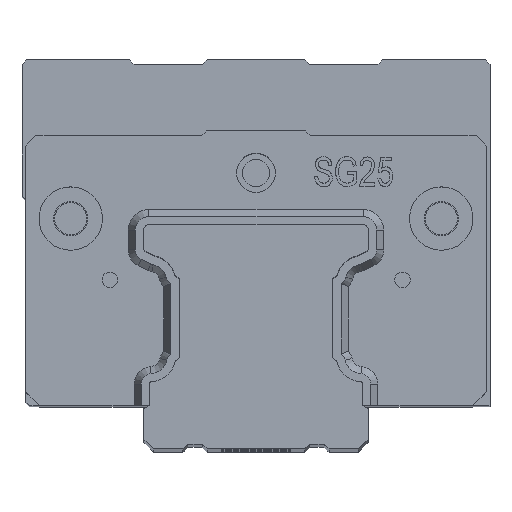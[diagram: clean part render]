
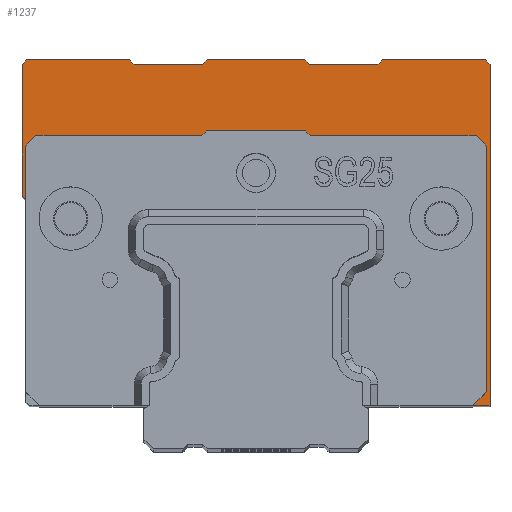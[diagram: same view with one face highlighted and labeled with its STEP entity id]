
A CAD part, top view. The second image highlights one B-rep face of the part: STEP entity #1237.
In plain terms, the highlighted planar face has unit normal (0, 0, 1).
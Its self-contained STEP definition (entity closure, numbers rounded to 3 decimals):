
#814=FACE_OUTER_BOUND('',#3558,.T.);
#1237=ADVANCED_FACE('',(#814),#1685,.F.);
#1685=PLANE('',#8945);
#1980=LINE('',#11864,#2641);
#1981=LINE('',#11867,#2642);
#1982=LINE('',#11869,#2643);
#1983=LINE('',#11871,#2644);
#1984=LINE('',#11873,#2645);
#1985=LINE('',#11875,#2646);
#1986=LINE('',#11877,#2647);
#1987=LINE('',#11879,#2648);
#1988=LINE('',#11881,#2649);
#1989=LINE('',#11883,#2650);
#1990=LINE('',#11885,#2651);
#1991=LINE('',#11887,#2652);
#1992=LINE('',#11889,#2653);
#1993=LINE('',#11891,#2654);
#1994=LINE('',#11893,#2655);
#1995=LINE('',#11895,#2656);
#1996=LINE('',#11897,#2657);
#1997=LINE('',#11899,#2658);
#1998=LINE('',#11901,#2659);
#1999=LINE('',#11903,#2660);
#2000=LINE('',#11905,#2661);
#2001=LINE('',#11907,#2662);
#2002=LINE('',#11909,#2663);
#2003=LINE('',#11911,#2664);
#2004=LINE('',#11913,#2665);
#2641=VECTOR('',#9822,1.);
#2642=VECTOR('',#9823,1.);
#2643=VECTOR('',#9824,1.);
#2644=VECTOR('',#9825,1.);
#2645=VECTOR('',#9826,1.);
#2646=VECTOR('',#9827,1.);
#2647=VECTOR('',#9828,1.);
#2648=VECTOR('',#9829,1.);
#2649=VECTOR('',#9830,1.);
#2650=VECTOR('',#9831,1.);
#2651=VECTOR('',#9832,1.);
#2652=VECTOR('',#9833,1.);
#2653=VECTOR('',#9834,1.);
#2654=VECTOR('',#9835,1.);
#2655=VECTOR('',#9836,1.);
#2656=VECTOR('',#9837,1.);
#2657=VECTOR('',#9838,1.);
#2658=VECTOR('',#9839,1.);
#2659=VECTOR('',#9840,1.);
#2660=VECTOR('',#9841,1.);
#2661=VECTOR('',#9842,1.);
#2662=VECTOR('',#9843,1.);
#2663=VECTOR('',#9844,1.);
#2664=VECTOR('',#9845,1.);
#2665=VECTOR('',#9846,1.);
#3558=EDGE_LOOP('',(#4391,#4392,#4393,#4394,#4395,#4396,#4397,#4398,#4399,
#4400,#4401,#4402,#4403,#4404,#4405,#4406,#4407,#4408,#4409,#4410,#4411,
#4412,#4413,#4414,#4415));
#4391=ORIENTED_EDGE('',*,*,#7493,.F.);
#4392=ORIENTED_EDGE('',*,*,#7494,.T.);
#4393=ORIENTED_EDGE('',*,*,#7495,.F.);
#4394=ORIENTED_EDGE('',*,*,#7496,.F.);
#4395=ORIENTED_EDGE('',*,*,#7497,.F.);
#4396=ORIENTED_EDGE('',*,*,#7498,.F.);
#4397=ORIENTED_EDGE('',*,*,#7499,.F.);
#4398=ORIENTED_EDGE('',*,*,#7500,.T.);
#4399=ORIENTED_EDGE('',*,*,#7501,.F.);
#4400=ORIENTED_EDGE('',*,*,#7502,.T.);
#4401=ORIENTED_EDGE('',*,*,#7503,.T.);
#4402=ORIENTED_EDGE('',*,*,#7504,.T.);
#4403=ORIENTED_EDGE('',*,*,#7505,.T.);
#4404=ORIENTED_EDGE('',*,*,#7506,.T.);
#4405=ORIENTED_EDGE('',*,*,#7507,.T.);
#4406=ORIENTED_EDGE('',*,*,#7508,.T.);
#4407=ORIENTED_EDGE('',*,*,#7509,.T.);
#4408=ORIENTED_EDGE('',*,*,#7510,.T.);
#4409=ORIENTED_EDGE('',*,*,#7511,.T.);
#4410=ORIENTED_EDGE('',*,*,#7512,.T.);
#4411=ORIENTED_EDGE('',*,*,#7513,.T.);
#4412=ORIENTED_EDGE('',*,*,#7514,.T.);
#4413=ORIENTED_EDGE('',*,*,#7515,.T.);
#4414=ORIENTED_EDGE('',*,*,#7516,.T.);
#4415=ORIENTED_EDGE('',*,*,#7517,.T.);
#6604=VERTEX_POINT('',#11865);
#6605=VERTEX_POINT('',#11866);
#6606=VERTEX_POINT('',#11868);
#6607=VERTEX_POINT('',#11870);
#6608=VERTEX_POINT('',#11872);
#6609=VERTEX_POINT('',#11874);
#6610=VERTEX_POINT('',#11876);
#6611=VERTEX_POINT('',#11878);
#6612=VERTEX_POINT('',#11880);
#6613=VERTEX_POINT('',#11882);
#6614=VERTEX_POINT('',#11884);
#6615=VERTEX_POINT('',#11886);
#6616=VERTEX_POINT('',#11888);
#6617=VERTEX_POINT('',#11890);
#6618=VERTEX_POINT('',#11892);
#6619=VERTEX_POINT('',#11894);
#6620=VERTEX_POINT('',#11896);
#6621=VERTEX_POINT('',#11898);
#6622=VERTEX_POINT('',#11900);
#6623=VERTEX_POINT('',#11902);
#6624=VERTEX_POINT('',#11904);
#6625=VERTEX_POINT('',#11906);
#6626=VERTEX_POINT('',#11908);
#6627=VERTEX_POINT('',#11910);
#6628=VERTEX_POINT('',#11912);
#7493=EDGE_CURVE('',#6604,#6605,#1980,.T.);
#7494=EDGE_CURVE('',#6604,#6606,#1981,.T.);
#7495=EDGE_CURVE('',#6607,#6606,#1982,.T.);
#7496=EDGE_CURVE('',#6608,#6607,#1983,.T.);
#7497=EDGE_CURVE('',#6609,#6608,#1984,.T.);
#7498=EDGE_CURVE('',#6610,#6609,#1985,.T.);
#7499=EDGE_CURVE('',#6611,#6610,#1986,.T.);
#7500=EDGE_CURVE('',#6611,#6612,#1987,.T.);
#7501=EDGE_CURVE('',#6613,#6612,#1988,.T.);
#7502=EDGE_CURVE('',#6613,#6614,#1989,.T.);
#7503=EDGE_CURVE('',#6614,#6615,#1990,.T.);
#7504=EDGE_CURVE('',#6615,#6616,#1991,.T.);
#7505=EDGE_CURVE('',#6616,#6617,#1992,.T.);
#7506=EDGE_CURVE('',#6617,#6618,#1993,.T.);
#7507=EDGE_CURVE('',#6618,#6619,#1994,.T.);
#7508=EDGE_CURVE('',#6619,#6620,#1995,.T.);
#7509=EDGE_CURVE('',#6620,#6621,#1996,.T.);
#7510=EDGE_CURVE('',#6621,#6622,#1997,.T.);
#7511=EDGE_CURVE('',#6622,#6623,#1998,.T.);
#7512=EDGE_CURVE('',#6623,#6624,#1999,.T.);
#7513=EDGE_CURVE('',#6624,#6625,#2000,.T.);
#7514=EDGE_CURVE('',#6625,#6626,#2001,.T.);
#7515=EDGE_CURVE('',#6626,#6627,#2002,.T.);
#7516=EDGE_CURVE('',#6627,#6628,#2003,.T.);
#7517=EDGE_CURVE('',#6628,#6605,#2004,.T.);
#8945=AXIS2_PLACEMENT_3D('',#11914,#9847,#9848);
#9822=DIRECTION('',(0.,-1.,0.));
#9823=DIRECTION('',(0.707,0.707,0.));
#9824=DIRECTION('',(-1.,0.,0.));
#9825=DIRECTION('',(-0.707,-0.707,0.));
#9826=DIRECTION('',(-1.,0.,0.));
#9827=DIRECTION('',(-0.707,0.707,0.));
#9828=DIRECTION('',(-1.,0.,0.));
#9829=DIRECTION('',(0.707,-0.707,0.));
#9830=DIRECTION('',(0.,1.,0.));
#9831=DIRECTION('',(-0.707,-0.707,0.));
#9832=DIRECTION('',(1.,0.,0.));
#9833=DIRECTION('',(0.,1.,0.));
#9834=DIRECTION('',(-0.707,0.707,0.));
#9835=DIRECTION('',(-1.,0.,0.));
#9836=DIRECTION('',(-0.707,-0.707,0.));
#9837=DIRECTION('',(-1.,0.,0.));
#9838=DIRECTION('',(-0.707,0.707,0.));
#9839=DIRECTION('',(-1.,0.,0.));
#9840=DIRECTION('',(-0.707,-0.707,0.));
#9841=DIRECTION('',(-1.,0.,0.));
#9842=DIRECTION('',(-0.707,0.707,0.));
#9843=DIRECTION('',(-1.,0.,0.));
#9844=DIRECTION('',(-0.707,-0.707,0.));
#9845=DIRECTION('',(0.,-1.,0.));
#9846=DIRECTION('',(0.707,-0.707,0.));
#9847=DIRECTION('',(0.,0.,-1.));
#9848=DIRECTION('',(1.,0.,0.));
#11864=CARTESIAN_POINT('',(-31.847,-8.324,213.143));
#11865=CARTESIAN_POINT('',(-31.847,19.872,213.143));
#11866=CARTESIAN_POINT('',(-31.847,14.384,213.143));
#11867=CARTESIAN_POINT('',(-14.878,36.841,213.143));
#11868=CARTESIAN_POINT('',(-30.781,20.938,213.143));
#11869=CARTESIAN_POINT('',(30.286,20.938,213.143));
#11870=CARTESIAN_POINT('',(-13.791,20.938,213.143));
#11871=CARTESIAN_POINT('',(-6.383,28.346,213.143));
#11872=CARTESIAN_POINT('',(-13.291,21.438,213.143));
#11873=CARTESIAN_POINT('',(30.286,21.438,213.143));
#11874=CARTESIAN_POINT('',(-3.136,21.438,213.143));
#11875=CARTESIAN_POINT('',(28.456,-10.154,213.143));
#11876=CARTESIAN_POINT('',(-2.636,20.938,213.143));
#11877=CARTESIAN_POINT('',(30.286,20.938,213.143));
#11878=CARTESIAN_POINT('',(14.353,20.938,213.143));
#11879=CARTESIAN_POINT('',(36.951,-1.659,213.143));
#11880=CARTESIAN_POINT('',(15.419,19.872,213.143));
#11881=CARTESIAN_POINT('',(15.419,-8.324,213.143));
#11882=CARTESIAN_POINT('',(15.419,-5.32,213.143));
#11883=CARTESIAN_POINT('',(21.351,0.611,213.143));
#11884=CARTESIAN_POINT('',(13.991,-6.749,213.143));
#11885=CARTESIAN_POINT('',(-31.414,-6.749,213.143));
#11886=CARTESIAN_POINT('',(15.786,-6.749,213.143));
#11887=CARTESIAN_POINT('',(15.786,-6.749,213.143));
#11888=CARTESIAN_POINT('',(15.786,28.251,213.143));
#11889=CARTESIAN_POINT('',(15.786,28.251,213.143));
#11890=CARTESIAN_POINT('',(15.286,28.751,213.143));
#11891=CARTESIAN_POINT('',(15.286,28.751,213.143));
#11892=CARTESIAN_POINT('',(4.786,28.751,213.143));
#11893=CARTESIAN_POINT('',(4.786,28.751,213.143));
#11894=CARTESIAN_POINT('',(4.286,28.251,213.143));
#11895=CARTESIAN_POINT('',(4.286,28.251,213.143));
#11896=CARTESIAN_POINT('',(-2.714,28.251,213.143));
#11897=CARTESIAN_POINT('',(-2.714,28.251,213.143));
#11898=CARTESIAN_POINT('',(-3.214,28.751,213.143));
#11899=CARTESIAN_POINT('',(-3.214,28.751,213.143));
#11900=CARTESIAN_POINT('',(-13.214,28.751,213.143));
#11901=CARTESIAN_POINT('',(-13.214,28.751,213.143));
#11902=CARTESIAN_POINT('',(-13.714,28.251,213.143));
#11903=CARTESIAN_POINT('',(-13.714,28.251,213.143));
#11904=CARTESIAN_POINT('',(-20.714,28.251,213.143));
#11905=CARTESIAN_POINT('',(-20.714,28.251,213.143));
#11906=CARTESIAN_POINT('',(-21.214,28.751,213.143));
#11907=CARTESIAN_POINT('',(-21.214,28.751,213.143));
#11908=CARTESIAN_POINT('',(-31.714,28.751,213.143));
#11909=CARTESIAN_POINT('',(-31.714,28.751,213.143));
#11910=CARTESIAN_POINT('',(-32.214,28.251,213.143));
#11911=CARTESIAN_POINT('',(-32.214,28.251,213.143));
#11912=CARTESIAN_POINT('',(-32.214,14.751,213.143));
#11913=CARTESIAN_POINT('',(-32.214,14.751,213.143));
#11914=CARTESIAN_POINT('',(18.186,-8.524,213.143));
